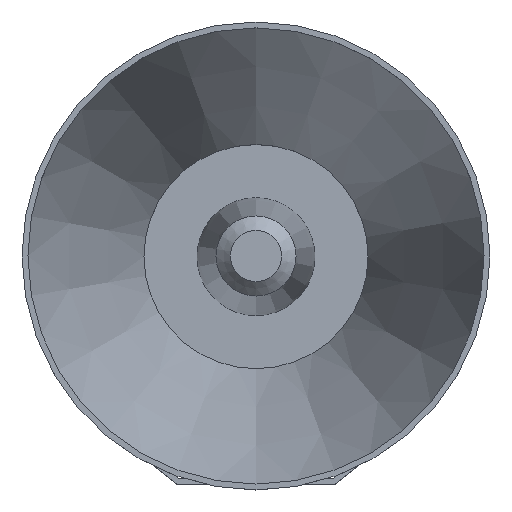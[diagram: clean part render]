
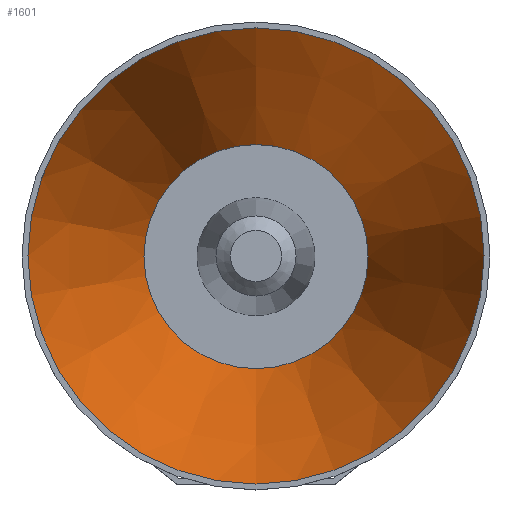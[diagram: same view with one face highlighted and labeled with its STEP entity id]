
A CAD part, top view. The second image highlights one B-rep face of the part: STEP entity #1601.
In plain terms, the highlighted conical face has half-angle 20.126 degrees and reference radius 86.683 mm.
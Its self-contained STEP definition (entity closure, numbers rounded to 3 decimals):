
#62=CONICAL_SURFACE('',#1745,86.683,0.351);
#155=FACE_OUTER_BOUND('',#258,.T.);
#258=EDGE_LOOP('',(#1159,#1160,#1161,#1162));
#370=CIRCLE('',#1744,116.);
#371=CIRCLE('',#1746,57.);
#471=LINE('',#2536,#595);
#595=VECTOR('',#1995,89.5);
#718=VERTEX_POINT('',#2531);
#719=VERTEX_POINT('',#2535);
#888=EDGE_CURVE('',#718,#718,#370,.F.);
#889=EDGE_CURVE('',#718,#719,#471,.T.);
#890=EDGE_CURVE('',#719,#719,#371,.T.);
#1159=ORIENTED_EDGE('',*,*,#888,.F.);
#1160=ORIENTED_EDGE('',*,*,#889,.T.);
#1161=ORIENTED_EDGE('',*,*,#890,.T.);
#1162=ORIENTED_EDGE('',*,*,#889,.F.);
#1601=ADVANCED_FACE('',(#155),#62,.F.);
#1744=AXIS2_PLACEMENT_3D('',#2533,#1991,#1992);
#1745=AXIS2_PLACEMENT_3D('',#2534,#1993,#1994);
#1746=AXIS2_PLACEMENT_3D('',#2537,#1996,#1997);
#1991=DIRECTION('center_axis',(0.,0.,1.));
#1992=DIRECTION('ref_axis',(0.,1.,0.));
#1993=DIRECTION('center_axis',(0.,0.,1.));
#1994=DIRECTION('ref_axis',(0.,1.,0.));
#1995=DIRECTION('',(0.,0.344,-0.939));
#1996=DIRECTION('center_axis',(0.,0.,-1.));
#1997=DIRECTION('ref_axis',(0.,1.,0.));
#2531=CARTESIAN_POINT('',(0.,-116.,196.532));
#2533=CARTESIAN_POINT('Origin',(0.,0.,196.532));
#2534=CARTESIAN_POINT('Origin',(0.,0.,116.532));
#2535=CARTESIAN_POINT('',(0.,-57.,35.532));
#2536=CARTESIAN_POINT('',(0.,-86.683,116.532));
#2537=CARTESIAN_POINT('Origin',(0.,0.,35.532));
